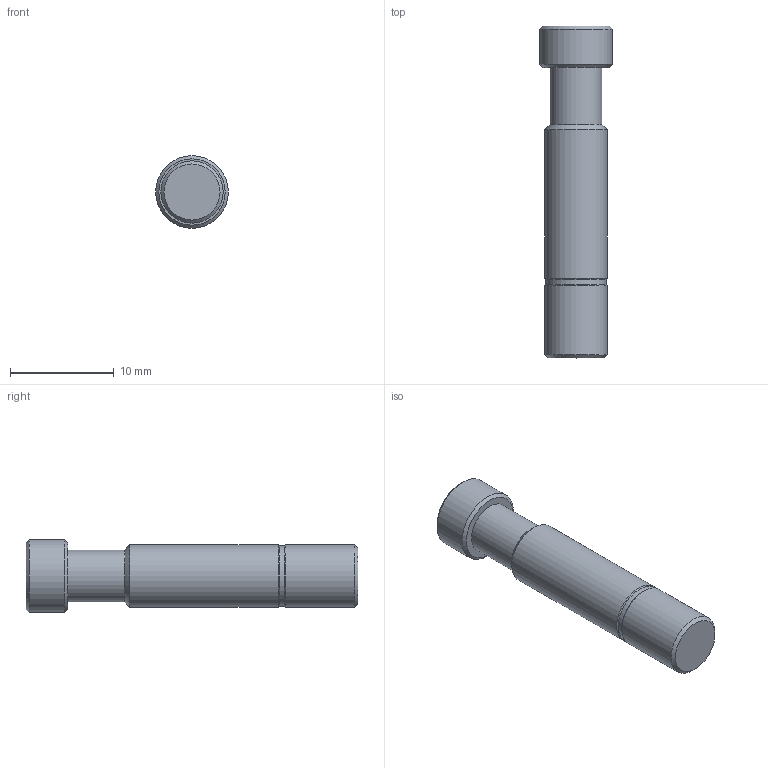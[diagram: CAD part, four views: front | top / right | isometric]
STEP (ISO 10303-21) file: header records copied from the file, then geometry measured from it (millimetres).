
FILE_DESCRIPTION(/* description */ (''),/* implementation_level */ '2;1');
FILE_NAME(/* name */ 'LXH55 0606 00.stp',/* time_stamp */ '2026-04-19T15:29:34+02:00',/* author */ ('freju'),/* organization */ (''),/* preprocessor_version */ 'ST-DEVELOPER v20.1',/* originating_system */ 'Autodesk Inventor 2026',/* authorisation */ '');
FILE_SCHEMA (('AUTOMOTIVE_DESIGN { 1 0 10303 214 3 1 1 }'));
Length unit declared in the file: millimetre
Products named in the file (1): LXH55 0606 00
Bounding box: 7 x 32 x 7 mm (x, y, z)
Volume: 891.9 mm3; surface area: 677.2 mm2
Topology: 1 solids, 1 shells, 14 faces, 31 edges, 20 vertices
Faces by surface type: cylinder 5, cone 4, plane 3, torus 2
Full cylindrical faces by diameter (mm): 5 x1, 5.8 x1, 6 x2, 7 x1
Entity records: 444 total; most frequent: DIRECTION 83, CARTESIAN_POINT 66, ORIENTED_EDGE 62, AXIS2_PLACEMENT_3D 37, EDGE_CURVE 31, CIRCLE 22, VERTEX_POINT 20, EDGE_LOOP 15
